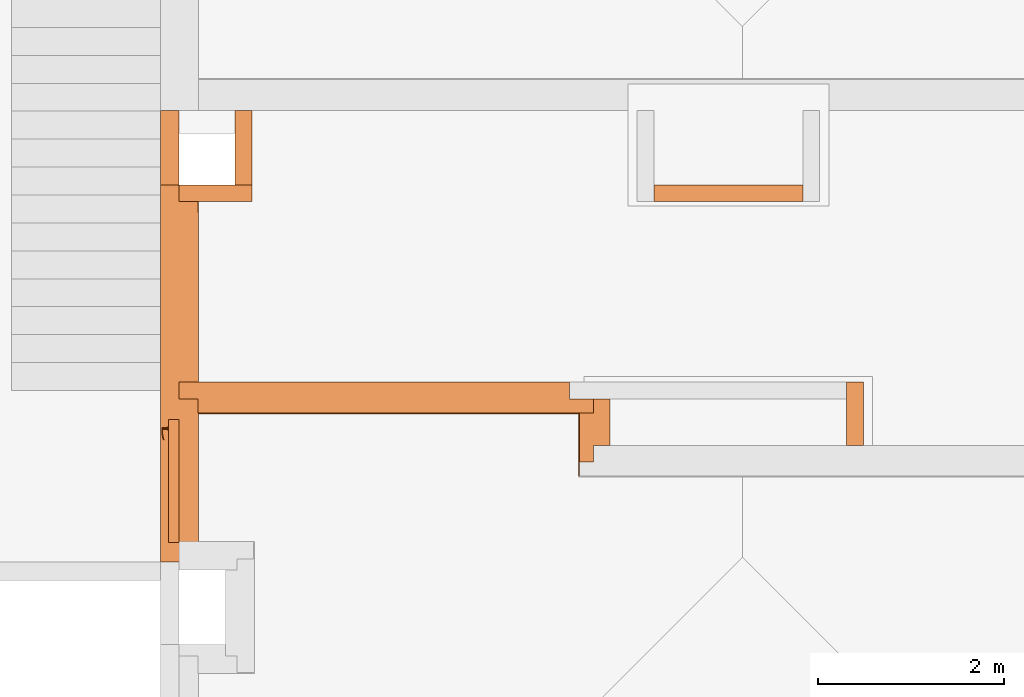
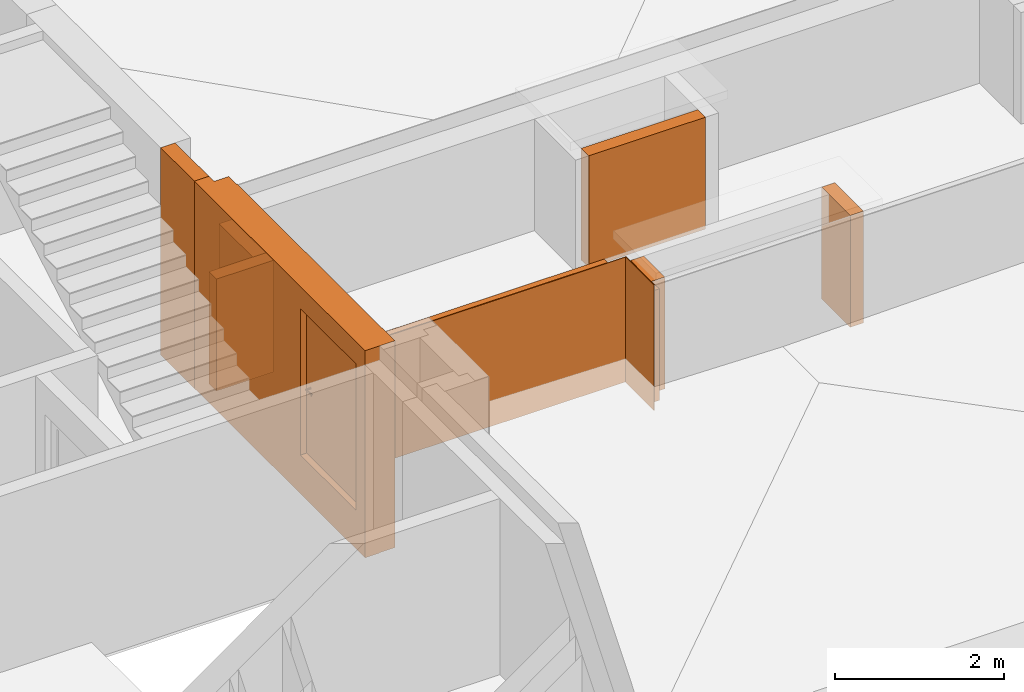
# One storey, part 22 of 30: 9 proxies, 1 opening.
"""IFC2X3 building model written with IfcOpenShell, lengths in millimetres."""

from ifc_helpers import new_model, entity, si_unit, converted_unit, derived_unit, money_unit, direction, frame, origin_with_axes, origin_2d_with_axis, place, context, subcontext, project, spatial, rectangle, extrude, open_shell, faceted_brep, surface_model, material, material_list, type_object, element, fill, save


model = new_model("IFC2X3")

# Units and contexts
model_context = context("Model", 3, precision=0.01, world=origin_with_axes(), true_north=direction((0.34421633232, 0.938890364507)))
body_context = subcontext(model_context, "Body", "Model", "MODEL_VIEW")
ifc_project = project(units=[si_unit("LENGTHUNIT", "METRE", prefix="MILLI"), si_unit("AREAUNIT", "SQUARE_METRE"), si_unit("VOLUMEUNIT", "CUBIC_METRE"), converted_unit("PLANEANGLEUNIT", "DEGREE", entity("IfcPlaneAngleMeasure", 0.0174532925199), si_unit("PLANEANGLEUNIT", "RADIAN"), dimensions=[0, 0, 0, 0, 0, 0, 0]), si_unit("SOLIDANGLEUNIT", "STERADIAN"), money_unit("USD"), converted_unit("TIMEUNIT", "Year", entity("IfcTimeMeasure", 31556926.0), si_unit("TIMEUNIT", "SECOND"), dimensions=[0, 0, 1, 0, 0, 0, 0]), si_unit("MASSUNIT", "GRAM", prefix="KILO"), si_unit("THERMODYNAMICTEMPERATUREUNIT", "DEGREE_CELSIUS"), si_unit("LUMINOUSINTENSITYUNIT", "LUMEN"), si_unit("ENERGYUNIT", "JOULE", prefix="MEGA"), derived_unit("THERMALCONDUCTANCEUNIT", [(si_unit("POWERUNIT", "WATT"), 1), (si_unit("LENGTHUNIT", "METRE"), -1), (si_unit("THERMODYNAMICTEMPERATUREUNIT", "KELVIN"), -1)]), derived_unit("SPECIFICHEATCAPACITYUNIT", [(si_unit("ENERGYUNIT", "JOULE"), 1), (si_unit("MASSUNIT", "GRAM", prefix="KILO"), -1), (si_unit("THERMODYNAMICTEMPERATUREUNIT", "KELVIN"), -1)]), derived_unit("MASSDENSITYUNIT", [(si_unit("MASSUNIT", "GRAM", prefix="KILO"), 1), (si_unit("VOLUMEUNIT", "CUBIC_METRE"), -1)])], contexts=[model_context])

# Site, building, storey
site_placement = place(None, origin_with_axes())
site = spatial("IfcSite", under=ifc_project, at=site_placement, Name="USTRONIE MORSKIE", CompositionType="ELEMENT")
building_placement = place(site_placement, origin_with_axes())
building = spatial("IfcBuilding", under=site, at=building_placement, Name="Budynek", CompositionType="ELEMENT")
storey_placement = place(building_placement, frame((0.0, 0.0, 16000.0), z_axis=(0.0, 0.0, 1.0), x_axis=(1.0, 0.0, 0.0)))
storey = spatial("IfcBuildingStorey", under=building, at=storey_placement, Name="ANTRESOLA - KOND. TECHNICZNA", CompositionType="ELEMENT", Elevation=16000.0)

# Proxies, opening
ifc_material_1 = material(Name="Tynk zewnętrzny")
ifc_material_2 = material(Name="Wełna ELEW")
ifc_material_3 = material(Name="Beton konstrukcyjny B25")
ifc_material_list_1 = material_list([ifc_material_1, ifc_material_2, ifc_material_3])
building_element_proxy_type_1 = type_object("IfcBuildingElementProxyType", Name="20+20 410", PredefinedType="NOTDEFINED")
proxy_1_placement = place(storey_placement, frame((396317.920919, 736951.199036, -160.0), z_axis=(0.0, 0.0, 1.0), x_axis=(0.0, -1.0, 0.0)))
proxy_1 = element("IfcBuildingElementProxy", 1, at=proxy_1_placement, inside=storey, type_object=building_element_proxy_type_1, material=ifc_material_list_1, Name="Œciana-006", context=body_context, shape_type="Brep", body=[
    faceted_brep([(2119.99526878, 310.00000561, 5.0), (180.0, 310.00001125, 5.0), (180.0, 310.00000124, 1620.00000171), (2119.99526878, 310.000000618, 1620.00000171), (180.0, 300.000002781, 5.0), (2119.99526878, 300.000001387, 5.0), (180.0, 300.000000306, 1620.00000171), (2119.99526878, 300.000000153, 1620.00000171)], [[[0, 1, 2, 3]], [[4, 1, 0, 5]], [[1, 4, 6, 2]], [[3, 2, 6, 7]], [[5, 0, 3, 7]], [[4, 5, 7, 6]]]),
    faceted_brep([(4050.0, 310.0, 5.0), (2449.99528083, 310.000004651, 5.0), (2449.99961725, 310.000000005, 1820.00000171), (2449.99961725, 310.000004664, 1825.00000171), (300.0, 310.0, 1825.00000171), (300.0, 310.0, 3000.0), (4050.0, 310.0, 3000.0), (2449.99528086, 300.00000115, 5.0), (4050.0, 300.0, 5.0), (2449.99962788, 300.000000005, 1820.00000171), (2449.99962788, 300.0, 1825.00000171), (300.0, 300.0, 1825.00000171), (300.0, 300.0, 3000.0), (4050.0, 300.0, 3000.0)], [[[0, 1, 2, 3, 4, 5, 6]], [[7, 1, 0, 8]], [[1, 7, 9, 2]], [[3, 2, 9, 10]], [[11, 4, 3, 10]], [[4, 11, 12, 5]], [[6, 5, 12, 13]], [[8, 0, 6, 13]], [[7, 8, 13, 12, 11, 10, 9]]]),
    faceted_brep([(4050.0, 300.0, 5.0), (2299.99526868, 300.000001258, 5.0), (2299.99526877, 300.000000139, 1620.00000171), (2449.99962788, 300.000001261, 1620.00000171), (2449.99962788, 300.000001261, 1820.00000171), (2449.99962788, 300.000001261, 1825.00000171), (120.0, 300.0, 1825.00000171), (120.0, 300.0, 3000.0), (4050.0, 300.0, 3000.0), (2299.99526873, 100.000000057, 5.0), (4050.0, 100.000000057, 5.0), (2299.99526878, 100.000002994, 1620.00000171), (2449.99984052, 100.000002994, 1620.00000171), (2449.99984052, 100.000002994, 1820.00000171), (2449.99984052, 100.000002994, 1825.00000171), (120.0, 100.000002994, 1825.00000171), (120.0, 100.0, 3000.0), (4050.0, 100.0, 3000.0)], [[[0, 1, 2, 3, 4, 5, 6, 7, 8]], [[9, 1, 0, 10]], [[1, 9, 11, 2]], [[3, 2, 11, 12]], [[13, 4, 3, 12]], [[5, 4, 13, 14]], [[15, 6, 5, 14]], [[6, 15, 16, 7]], [[8, 7, 16, 17]], [[10, 0, 8, 17]], [[9, 10, 17, 16, 15, 14, 13, 12, 11]]]),
    faceted_brep([(2119.99526878, 300.000001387, 5.0), (180.0, 300.000002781, 5.0), (180.0, 300.000000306, 1620.00000171), (2119.99526878, 300.000000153, 1620.00000171), (180.0, 100.000000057, 5.0), (2119.99526878, 100.000000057, 5.0), (180.0, 100.000002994, 1620.00000171), (2119.99526878, 100.000002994, 1620.00000171)], [[[0, 1, 2, 3]], [[4, 1, 0, 5]], [[1, 4, 6, 2]], [[3, 2, 6, 7]], [[5, 0, 3, 7]], [[4, 5, 7, 6]]]),
    faceted_brep([(0.0, 99.9999878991, 0.0), (0.0, 100.0, 1819.99999023), (0.0, 100.0, 1825.00000171), (0.0, 100.0, 3000.0), (4050.0, 100.0, 3000.0), (4050.0, 100.0, 0.0), (0.0, -100.0, 0.0), (0.0, -100.0, 1819.99999023), (0.0, -100.0, 1825.00000171), (0.0, -100.0, 3000.0), (4050.0, -100.0, 3000.0), (4050.0, -100.0, 0.0)], [[[0, 1, 2, 3, 4, 5]], [[0, 6, 7, 1]], [[1, 7, 8, 2]], [[2, 8, 9, 3]], [[10, 4, 3, 9]], [[11, 5, 4, 10]], [[5, 11, 6, 0]], [[11, 10, 9, 8, 7, 6]]]),
])
opening_placement = place(proxy_1_placement, frame((3180.0, 0.0, 560.0), z_axis=(0.0, 0.0, 1.0), x_axis=(1.0, 0.0, 0.0)))
opening = element("IfcOpeningElement", 2, at=opening_placement, cuts=proxy_1, Name="D8", context=body_context, shape_type="SweptSolid", body=[
    extrude(rectangle(XDim=1320.0, YDim=2120.0, at=origin_2d_with_axis()), frame((0.0, 100.0, 1060.0), z_axis=(0.0, 1.0, 0.0), x_axis=(1.0, 0.0, 0.0)), (0.0, 0.0, 1.0), 620.0),
    extrude(rectangle(XDim=1320.0, YDim=2120.0, at=origin_2d_with_axis()), frame((0.0, 100.0, 1060.0), z_axis=(0.0, -1.0, 0.0), x_axis=(1.0, 0.0, 0.0)), (0.0, 0.0, 1.0), 610.0),
])
building_element_proxy_type_2 = type_object("IfcBuildingElementProxyType", Name="Drzwi 23", PredefinedType="NOTDEFINED")
proxy_2_placement = place(opening_placement, frame((600.0, 0.0, 0.0), z_axis=(0.0, 0.0, 1.0), x_axis=(-1.0, 0.0, 0.0)))
proxy_2 = element("IfcBuildingElementProxy", 3, at=proxy_2_placement, inside=storey, type_object=building_element_proxy_type_2, Name="D8", context=body_context, shape_type="SurfaceModel", body=[
    faceted_brep([(1200.0, -25.0, 0.0), (1200.0, -100.0, 0.0), (1200.0, -100.0, 2050.0), (1200.0, -25.0, 2050.0), (1212.0, -25.0, 0.0), (1212.0, 15.0, 0.0), (1260.0, 15.0, 0.0), (1260.0, -100.0, 0.0), (1260.0, -100.0, 2050.0), (1212.0, -25.0, 2050.0), (1260.0, 15.0, 2050.0), (1212.0, 15.0, 2050.0)], [[[0, 1, 2, 3]], [[4, 5, 6, 7, 1, 0]], [[1, 7, 8, 2]], [[9, 3, 2, 8, 10, 11]], [[9, 4, 0, 3]], [[11, 5, 4, 9]], [[11, 10, 6, 5]], [[6, 10, 8, 7]]]),
    faceted_brep([(-11.9999999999, -25.0, 2050.0), (-11.9999999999, 15.0, 2050.0), (-59.9999999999, 15.0, 2050.0), (-59.9999999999, -100.0, 2050.0), (0.0, -100.0, 2050.0), (0.0, -25.0, 2050.0), (-11.9999999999, -25.0, 0.0), (-11.9999999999, 15.0, 0.0), (-59.9999999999, 15.0, 0.0), (-59.9999999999, -100.0, 0.0), (0.0, -100.0, 0.0), (0.0, -25.0, 0.0)], [[[0, 1, 2, 3, 4, 5]], [[0, 6, 7, 1]], [[7, 8, 2, 1]], [[2, 8, 9, 3]], [[3, 9, 10, 4]], [[5, 4, 10, 11]], [[5, 11, 6, 0]], [[6, 11, 10, 9, 8, 7]]]),
    faceted_brep([(1212.0, 15.0, 2062.0), (-11.9999999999, 15.0, 2062.0), (-11.9999999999, 15.0, 2050.0), (-59.9999999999, 15.0, 2050.0), (-59.9999999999, 15.0, 2120.0), (1260.0, 15.0, 2120.0), (1260.0, 15.0, 2050.0), (1212.0, 15.0, 2050.0), (1212.0, -25.0, 2062.0), (-11.9999999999, -25.0, 2062.0), (-11.9999999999, -25.0, 2050.0), (0.0, -25.0, 2050.0), (0.0, -100.0, 2050.0), (-59.9999999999, -100.0, 2050.0), (-59.9999999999, -100.0, 2120.0), (1260.0, -100.0, 2120.0), (1260.0, -100.0, 2050.0), (1212.0, -25.0, 2050.0), (1200.0, -100.0, 2050.0), (1200.0, -25.0, 2050.0)], [[[0, 1, 2, 3, 4, 5, 6, 7]], [[0, 8, 9, 1]], [[1, 9, 10, 2]], [[10, 11, 12, 13, 3, 2]], [[4, 3, 13, 14]], [[5, 4, 14, 15]], [[6, 5, 15, 16]], [[17, 7, 6, 16, 18, 19]], [[7, 17, 8, 0]], [[10, 9, 8, 17, 19, 11]], [[19, 18, 12, 11]], [[12, 18, 16, 15, 14, 13]]]),
    faceted_brep([(1190.5, -25.0, 1060.0), (1133.5, -25.0, 1060.0), (1133.5, -28.0, 1060.0), (1190.5, -28.0, 1060.0), (1190.5, -25.0, 870.0), (1133.5, -25.0, 870.0), (1133.5, -28.0, 870.0), (1190.5, -28.0, 870.0)], [[[0, 1, 2, 3]], [[0, 4, 5, 1]], [[1, 5, 6, 2]], [[3, 2, 6, 7]], [[4, 0, 3, 7]], [[5, 4, 7, 6]]]),
    faceted_brep([(1162.0, -88.9999999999, 990.0), (1167.0, -88.9999999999, 991.339745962), (1167.0, -95.9999999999, 991.339745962), (1162.0, -95.9999999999, 990.0), (1137.0, -88.9999999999, 990.0), (1137.0, -88.9999999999, 1010.0), (1162.0, -88.9999999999, 1010.0), (1167.0, -88.9999999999, 1008.66025404), (1170.66025404, -88.9999999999, 1005.0), (1172.0, -88.9999999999, 1000.0), (1170.66025404, -88.9999999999, 995.0), (1170.66025404, -95.9999999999, 995.0), (1172.0, -95.9999999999, 1000.0), (1170.66025404, -95.9999999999, 1005.0), (1167.0, -95.9999999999, 1008.66025404), (1162.0, -95.9999999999, 1010.0), (1137.0, -95.9999999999, 1010.0), (1137.0, -95.9999999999, 990.0)], [[[0, 1, 2, 3]], [[0, 4, 5, 6, 7, 8, 9, 10, 1]], [[1, 10, 11, 2]], [[3, 2, 11, 12, 13, 14, 15, 16, 17]], [[4, 0, 3, 17]], [[5, 4, 17, 16]], [[6, 5, 16, 15]], [[7, 6, 15, 14]], [[8, 7, 14, 13]], [[9, 8, 13, 12]], [[10, 9, 12, 11]]]),
    surface_model("IfcShellBasedSurfaceModel", [(1137.0, -88.9999999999, 1010.0), (1123.90171713, -88.9999999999, 1009.60730092), (1123.59609053, -95.9999999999, 1009.60730092), (1137.0, -88.9999999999, 990.0), (1123.90171713, -88.9999999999, 990.392699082), (1096.89028343, -93.6635446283, 1008.82190275), (1137.0, -95.9999999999, 1010.0), (1137.0, -95.9999999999, 990.0), (1097.80483722, -86.716818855, 991.178097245), (1097.80483722, -86.716818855, 1008.82190275), (1096.89028343, -93.6635446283, 991.178097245), (1123.59609053, -95.9999999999, 990.392699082), (1072.00625618, -82.1678329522, 991.963495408), (1072.00625618, -82.1678329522, 1008.03650459), (1070.48973549, -89.0084157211, 1008.03650459), (1070.48973549, -89.0084157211, 991.963495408), (1046.70231676, -75.3876628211, 992.748893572), (1046.70231676, -75.3876628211, 1007.25110643), (1044.59537082, -82.0700416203, 1007.25110643), (1044.59537082, -82.0700416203, 992.748893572), (1038.82944201, -72.5221707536, 993.0), (1038.82944201, -72.5221707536, 1007.0), (1036.53879566, -79.1376880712, 1007.0), (1036.53879566, -79.1376880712, 993.0)], [open_shell([[[0, 1, 2]], [[0, 3, 4, 1]], [[1, 5, 2]], [[0, 2, 6]], [[4, 3, 7]], [[1, 4, 8, 9]], [[1, 9, 5]], [[2, 5, 10, 11]], [[6, 2, 11, 7]], [[4, 7, 11]], [[8, 4, 11]], [[9, 8, 12, 13]], [[9, 14, 5]], [[5, 14, 15, 10]], [[8, 11, 10]], [[12, 8, 10]], [[13, 12, 16, 17]], [[9, 13, 14]], [[14, 18, 19, 15]], [[12, 10, 15]], [[16, 12, 15]], [[17, 16, 20, 21]], [[13, 17, 18]], [[13, 18, 14]], [[18, 22, 23, 19]], [[16, 15, 19]], [[20, 16, 19]], [[21, 20, 23, 22]], [[17, 21, 22]], [[17, 22, 18]], [[20, 19, 23]]])]),
    faceted_brep([(1151.60769515, -38.0, 994.0), (1150.0, -38.0, 1000.0), (1149.0, -28.0, 1000.0), (1150.74166975, -28.0, 993.5), (1156.0, -38.0, 989.607695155), (1162.0, -38.0, 988.0), (1168.0, -38.0, 989.607695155), (1172.39230485, -38.0, 994.0), (1174.0, -38.0, 1000.0), (1172.39230485, -38.0, 1006.0), (1168.0, -38.0, 1010.39230485), (1162.0, -38.0, 1012.0), (1156.0, -38.0, 1010.39230485), (1151.60769515, -38.0, 1006.0), (1150.74166975, -28.0, 1006.5), (1155.5, -28.0, 1011.25833025), (1162.0, -28.0, 1013.0), (1168.5, -28.0, 1011.25833025), (1173.25833025, -28.0, 1006.5), (1175.0, -28.0, 1000.0), (1173.25833025, -28.0, 993.5), (1168.5, -28.0, 988.741669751), (1162.0, -28.0, 987.0), (1155.5, -28.0, 988.741669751)], [[[0, 1, 2, 3]], [[1, 0, 4, 5, 6, 7, 8, 9, 10, 11, 12, 13]], [[1, 13, 14, 2]], [[2, 14, 15, 16, 17, 18, 19, 20, 21, 22, 23, 3]], [[4, 0, 3, 23]], [[5, 4, 23, 22]], [[6, 5, 22, 21]], [[7, 6, 21, 20]], [[8, 7, 20, 19]], [[9, 8, 19, 18]], [[10, 9, 18, 17]], [[11, 10, 17, 16]], [[12, 11, 16, 15]], [[13, 12, 15, 14]]]),
    faceted_brep([(1144.67949192, -32.0, 895.0), (1142.0, -32.0, 905.0), (1140.0, -28.0, 905.0), (1142.94744112, -28.0, 894.0), (1152.0, -32.0, 887.679491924), (1162.0, -32.0, 885.0), (1172.0, -32.0, 887.679491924), (1179.32050808, -32.0, 895.0), (1182.0, -32.0, 905.0), (1179.32050808, -32.0, 915.0), (1172.0, -32.0, 922.320508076), (1162.0, -32.0, 925.0), (1152.0, -32.0, 922.320508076), (1144.67949192, -32.0, 915.0), (1142.94744112, -28.0, 916.0), (1151.0, -28.0, 924.052558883), (1162.0, -28.0, 927.0), (1173.0, -28.0, 924.052558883), (1181.05255888, -28.0, 916.0), (1184.0, -28.0, 905.0), (1181.05255888, -28.0, 894.0), (1173.0, -28.0, 885.947441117), (1162.0, -28.0, 883.0), (1151.0, -28.0, 885.947441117)], [[[0, 1, 2, 3]], [[1, 0, 4, 5, 6, 7, 8, 9, 10, 11, 12, 13]], [[1, 13, 14, 2]], [[2, 14, 15, 16, 17, 18, 19, 20, 21, 22, 23, 3]], [[4, 0, 3, 23]], [[5, 4, 23, 22]], [[6, 5, 22, 21]], [[7, 6, 21, 20]], [[8, 7, 20, 19]], [[9, 8, 19, 18]], [[10, 9, 18, 17]], [[11, 10, 17, 16]], [[12, 11, 16, 15]], [[13, 12, 15, 14]]]),
    faceted_brep([(1157.05025253, -33.9999999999, 909.050252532), (1155.0, -33.9999999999, 914.0), (1154.0, -32.0, 914.0), (1156.34314575, -32.0, 908.343145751), (1162.0, -33.9999999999, 907.0), (1166.94974747, -33.9999999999, 909.050252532), (1169.0, -33.9999999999, 914.0), (1166.94974747, -33.9999999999, 918.949747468), (1162.0, -33.9999999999, 921.0), (1157.05025253, -33.9999999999, 918.949747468), (1156.34314575, -32.0, 919.656854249), (1162.0, -32.0, 922.0), (1167.65685425, -32.0, 919.656854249), (1170.0, -32.0, 914.0), (1167.65685425, -32.0, 908.343145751), (1162.0, -32.0, 906.0)], [[[0, 1, 2, 3]], [[1, 0, 4, 5, 6, 7, 8, 9]], [[1, 9, 10, 2]], [[2, 10, 11, 12, 13, 14, 15, 3]], [[4, 0, 3, 15]], [[5, 4, 15, 14]], [[6, 5, 14, 13]], [[7, 6, 13, 12]], [[8, 7, 12, 11]], [[9, 8, 11, 10]]]),
    faceted_brep([(1162.0, -38.0, 1010.0), (1157.0, -38.0, 1008.66025404), (1157.0, -88.9999999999, 1008.66025404), (1162.0, -88.9999999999, 1010.0), (1167.0, -38.0, 1008.66025404), (1170.66025404, -38.0, 1005.0), (1172.0, -38.0, 1000.0), (1170.66025404, -38.0, 995.0), (1167.0, -38.0, 991.339745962), (1162.0, -38.0, 990.0), (1157.0, -38.0, 991.339745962), (1153.33974596, -38.0, 995.0), (1152.0, -38.0, 1000.0), (1153.33974596, -38.0, 1005.0), (1153.33974596, -88.9999999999, 1005.0), (1152.0, -88.9999999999, 1000.0), (1153.33974596, -88.9999999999, 995.0), (1157.0, -88.9999999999, 991.339745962), (1162.0, -88.9999999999, 990.0), (1167.0, -88.9999999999, 991.339745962), (1170.66025404, -88.9999999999, 995.0), (1172.0, -88.9999999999, 1000.0), (1170.66025404, -88.9999999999, 1005.0), (1167.0, -88.9999999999, 1008.66025404)], [[[0, 1, 2, 3]], [[0, 4, 5, 6, 7, 8, 9, 10, 11, 12, 13, 1]], [[1, 13, 14, 2]], [[3, 2, 14, 15, 16, 17, 18, 19, 20, 21, 22, 23]], [[4, 0, 3, 23]], [[5, 4, 23, 22]], [[6, 5, 22, 21]], [[7, 6, 21, 20]], [[8, 7, 20, 19]], [[9, 8, 19, 18]], [[10, 9, 18, 17]], [[11, 10, 17, 16]], [[12, 11, 16, 15]], [[13, 12, 15, 14]]]),
    faceted_brep([(1190.5, 15.0, 1060.0), (1190.5, 18.0, 1060.0), (1133.5, 18.0, 1060.0), (1133.5, 15.0, 1060.0), (1190.5, 15.0, 870.0), (1190.5, 18.0, 870.0), (1133.5, 18.0, 870.0), (1133.5, 15.0, 870.0)], [[[0, 1, 2, 3]], [[4, 5, 1, 0]], [[1, 5, 6, 2]], [[3, 2, 6, 7]], [[0, 3, 7, 4]], [[7, 6, 5, 4]]]),
    faceted_brep([(1162.0, 79.0000000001, 990.0), (1162.0, 86.0000000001, 990.0), (1167.0, 86.0000000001, 991.339745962), (1167.0, 79.0000000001, 991.339745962), (1137.0, 79.0000000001, 990.0), (1137.0, 86.0000000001, 990.0), (1137.0, 86.0000000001, 1010.0), (1162.0, 86.0000000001, 1010.0), (1167.0, 86.0000000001, 1008.66025404), (1170.66025404, 86.0000000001, 1005.0), (1172.0, 86.0000000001, 1000.0), (1170.66025404, 86.0000000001, 995.0), (1170.66025404, 79.0000000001, 995.0), (1172.0, 79.0000000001, 1000.0), (1170.66025404, 79.0000000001, 1005.0), (1167.0, 79.0000000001, 1008.66025404), (1162.0, 79.0000000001, 1010.0), (1137.0, 79.0000000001, 1010.0)], [[[0, 1, 2, 3]], [[4, 5, 1, 0]], [[1, 5, 6, 7, 8, 9, 10, 11, 2]], [[3, 2, 11, 12]], [[0, 3, 12, 13, 14, 15, 16, 17, 4]], [[17, 6, 5, 4]], [[16, 7, 6, 17]], [[15, 8, 7, 16]], [[14, 9, 8, 15]], [[13, 10, 9, 14]], [[12, 11, 10, 13]]]),
    surface_model("IfcShellBasedSurfaceModel", [(1137.0, 79.0000000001, 1010.0), (1123.59609053, 86.0000000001, 1009.60730092), (1123.90171713, 79.0000000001, 1009.60730092), (1137.0, 86.0000000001, 1010.0), (1096.89028343, 83.6635446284, 1008.82190275), (1123.90171713, 79.0000000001, 990.392699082), (1137.0, 79.0000000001, 990.0), (1137.0, 86.0000000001, 990.0), (1123.59609053, 86.0000000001, 990.392699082), (1096.89028343, 83.6635446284, 991.178097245), (1097.80483722, 76.7168188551, 1008.82190275), (1097.80483722, 76.7168188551, 991.178097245), (1070.48973549, 79.0084157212, 991.963495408), (1070.48973549, 79.0084157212, 1008.03650459), (1072.00625618, 72.1678329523, 1008.03650459), (1072.00625618, 72.1678329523, 991.963495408), (1044.59537082, 72.0700416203, 992.748893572), (1044.59537082, 72.0700416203, 1007.25110643), (1046.70231676, 65.3876628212, 1007.25110643), (1046.70231676, 65.3876628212, 992.748893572), (1036.53879566, 69.1376880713, 993.0), (1036.53879566, 69.1376880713, 1007.0), (1038.82944201, 62.5221707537, 1007.0), (1038.82944201, 62.5221707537, 993.0)], [open_shell([[[0, 1, 2]], [[0, 3, 1]], [[2, 1, 4]], [[0, 2, 5, 6]], [[3, 7, 8, 1]], [[1, 8, 9, 4]], [[2, 4, 10]], [[2, 10, 11, 5]], [[5, 7, 6]], [[5, 8, 7]], [[11, 9, 8]], [[4, 9, 12, 13]], [[10, 4, 13]], [[10, 14, 15, 11]], [[11, 8, 5]], [[15, 9, 11]], [[15, 12, 9]], [[13, 12, 16, 17]], [[10, 13, 14]], [[14, 18, 19, 15]], [[19, 12, 15]], [[19, 16, 12]], [[17, 16, 20, 21]], [[14, 13, 17]], [[14, 17, 18]], [[18, 22, 23, 19]], [[23, 16, 19]], [[23, 20, 16]], [[22, 21, 20, 23]], [[18, 17, 21]], [[18, 21, 22]]])]),
    faceted_brep([(1151.60769515, 28.0, 994.0), (1150.74166975, 18.0, 993.5), (1149.0, 18.0, 1000.0), (1150.0, 28.0, 1000.0), (1156.0, 28.0, 989.607695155), (1155.5, 18.0, 988.741669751), (1162.0, 18.0, 987.0), (1168.5, 18.0, 988.741669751), (1173.25833025, 18.0, 993.5), (1175.0, 18.0, 1000.0), (1173.25833025, 18.0, 1006.5), (1168.5, 18.0, 1011.25833025), (1162.0, 18.0, 1013.0), (1155.5, 18.0, 1011.25833025), (1150.74166975, 18.0, 1006.5), (1151.60769515, 28.0, 1006.0), (1156.0, 28.0, 1010.39230485), (1162.0, 28.0, 1012.0), (1168.0, 28.0, 1010.39230485), (1172.39230485, 28.0, 1006.0), (1174.0, 28.0, 1000.0), (1172.39230485, 28.0, 994.0), (1168.0, 28.0, 989.607695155), (1162.0, 28.0, 988.0)], [[[0, 1, 2, 3]], [[4, 5, 1, 0]], [[2, 1, 5, 6, 7, 8, 9, 10, 11, 12, 13, 14]], [[3, 2, 14, 15]], [[3, 15, 16, 17, 18, 19, 20, 21, 22, 23, 4, 0]], [[23, 6, 5, 4]], [[22, 7, 6, 23]], [[21, 8, 7, 22]], [[20, 9, 8, 21]], [[19, 10, 9, 20]], [[18, 11, 10, 19]], [[17, 12, 11, 18]], [[16, 13, 12, 17]], [[15, 14, 13, 16]]]),
    faceted_brep([(1144.67949192, 22.0, 895.0), (1142.94744112, 18.0, 894.0), (1140.0, 18.0, 905.0), (1142.0, 22.0, 905.0), (1152.0, 22.0, 887.679491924), (1151.0, 18.0, 885.947441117), (1162.0, 18.0, 883.0), (1173.0, 18.0, 885.947441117), (1181.05255888, 18.0, 894.0), (1184.0, 18.0, 905.0), (1181.05255888, 18.0, 916.0), (1173.0, 18.0, 924.052558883), (1162.0, 18.0, 927.0), (1151.0, 18.0, 924.052558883), (1142.94744112, 18.0, 916.0), (1144.67949192, 22.0, 915.0), (1152.0, 22.0, 922.320508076), (1162.0, 22.0, 925.0), (1172.0, 22.0, 922.320508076), (1179.32050808, 22.0, 915.0), (1182.0, 22.0, 905.0), (1179.32050808, 22.0, 895.0), (1172.0, 22.0, 887.679491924), (1162.0, 22.0, 885.0)], [[[0, 1, 2, 3]], [[4, 5, 1, 0]], [[2, 1, 5, 6, 7, 8, 9, 10, 11, 12, 13, 14]], [[3, 2, 14, 15]], [[3, 15, 16, 17, 18, 19, 20, 21, 22, 23, 4, 0]], [[23, 6, 5, 4]], [[22, 7, 6, 23]], [[21, 8, 7, 22]], [[20, 9, 8, 21]], [[19, 10, 9, 20]], [[18, 11, 10, 19]], [[17, 12, 11, 18]], [[16, 13, 12, 17]], [[15, 14, 13, 16]]]),
    faceted_brep([(1157.05025253, 24.0000000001, 909.050252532), (1156.34314575, 22.0, 908.343145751), (1154.0, 22.0, 914.0), (1155.0, 24.0000000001, 914.0), (1162.0, 24.0000000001, 907.0), (1162.0, 22.0, 906.0), (1167.65685425, 22.0, 908.343145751), (1170.0, 22.0, 914.0), (1167.65685425, 22.0, 919.656854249), (1162.0, 22.0, 922.0), (1156.34314575, 22.0, 919.656854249), (1157.05025253, 24.0000000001, 918.949747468), (1162.0, 24.0000000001, 921.0), (1166.94974747, 24.0000000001, 918.949747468), (1169.0, 24.0000000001, 914.0), (1166.94974747, 24.0000000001, 909.050252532)], [[[0, 1, 2, 3]], [[4, 5, 1, 0]], [[2, 1, 5, 6, 7, 8, 9, 10]], [[3, 2, 10, 11]], [[3, 11, 12, 13, 14, 15, 4, 0]], [[15, 6, 5, 4]], [[14, 7, 6, 15]], [[13, 8, 7, 14]], [[12, 9, 8, 13]], [[11, 10, 9, 12]]]),
    faceted_brep([(1162.0, 28.0, 1010.0), (1162.0, 79.0000000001, 1010.0), (1157.0, 79.0000000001, 1008.66025404), (1157.0, 28.0, 1008.66025404), (1167.0, 28.0, 1008.66025404), (1167.0, 79.0000000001, 1008.66025404), (1170.66025404, 79.0000000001, 1005.0), (1172.0, 79.0000000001, 1000.0), (1170.66025404, 79.0000000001, 995.0), (1167.0, 79.0000000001, 991.339745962), (1162.0, 79.0000000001, 990.0), (1157.0, 79.0000000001, 991.339745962), (1153.33974596, 79.0000000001, 995.0), (1152.0, 79.0000000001, 1000.0), (1153.33974596, 79.0000000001, 1005.0), (1153.33974596, 28.0, 1005.0), (1152.0, 28.0, 1000.0), (1153.33974596, 28.0, 995.0), (1157.0, 28.0, 991.339745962), (1162.0, 28.0, 990.0), (1167.0, 28.0, 991.339745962), (1170.66025404, 28.0, 995.0), (1172.0, 28.0, 1000.0), (1170.66025404, 28.0, 1005.0)], [[[0, 1, 2, 3]], [[4, 5, 1, 0]], [[1, 5, 6, 7, 8, 9, 10, 11, 12, 13, 14, 2]], [[3, 2, 14, 15]], [[0, 3, 15, 16, 17, 18, 19, 20, 21, 22, 23, 4]], [[23, 6, 5, 4]], [[22, 7, 6, 23]], [[21, 8, 7, 22]], [[20, 9, 8, 21]], [[19, 10, 9, 20]], [[18, 11, 10, 19]], [[17, 12, 11, 18]], [[16, 13, 12, 17]], [[15, 14, 13, 16]]]),
    faceted_brep([(-11.9999999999, 15.0, 0.0), (1212.0, 15.0, 0.0), (1212.0, -25.0, 0.0), (-11.9999999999, -25.0, 0.0), (-11.9999999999, 15.0, 2062.0), (1212.0, 15.0, 2062.0), (1212.0, -25.0, 2062.0), (-11.9999999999, -25.0, 2062.0)], [[[0, 1, 2, 3]], [[0, 4, 5, 1]], [[1, 5, 6, 2]], [[3, 2, 6, 7]], [[4, 0, 3, 7]], [[5, 4, 7, 6]]]),
])
fill(opening, proxy_2)

# Proxies
ifc_material_4 = material(Name="Bloczki silikatowe")
building_element_proxy_type_3 = type_object("IfcBuildingElementProxyType", Name="Bloczki silikatowe 180", PredefinedType="NOTDEFINED")
proxy_3_placement = place(storey_placement, frame((403207.920919, 736861.199036, -359.999998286), z_axis=(0.0, 0.0, 1.0), x_axis=(-1.0, 0.0, 0.0)))
element("IfcBuildingElementProxy", 4, at=proxy_3_placement, inside=storey, type_object=building_element_proxy_type_3, material=ifc_material_4, Name="SW-02", context=body_context, shape_type="Brep", body=[
    faceted_brep([(90.0, 90.0, 1820.0), (90.0, 90.0, 199.999998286), (90.0, -90.0, 199.999998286), (90.0, -90.0, 1820.0), (790.0, 90.0000000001, 199.999998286), (1690.0, 90.0, 1820.0), (1690.0, 90.0, 199.999998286), (990.0, 90.0000000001, 199.999998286), (790.0, -90.0, 199.999998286), (990.0, -90.0, 199.999998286), (1690.0, -90.0, 199.999998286), (1690.0, -90.0, 1820.0)], [[[0, 1, 2, 3]], [[4, 1, 0, 5, 6, 7]], [[8, 2, 1, 4]], [[3, 2, 8, 9, 10, 11]], [[5, 0, 3, 11]], [[11, 10, 6, 5]], [[9, 7, 6, 10]], [[9, 8, 4, 7]]]),
])
proxy_4_placement = place(storey_placement, frame((397017.904099, 736951.199036, -159.999998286), z_axis=(0.0, 0.0, 1.0), x_axis=(-1.0, 0.0, 0.0)))
element("IfcBuildingElementProxy", 5, at=proxy_4_placement, inside=storey, type_object=building_element_proxy_type_3, material=ifc_material_4, Name="SW-02", context=body_context, shape_type="Brep", body=[
    faceted_brep([(599.983179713, 0.0, -1.71373315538e-06), (599.983176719, -2.1998516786e-05, 1620.0), (7.4743809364e-05, -2.1998516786e-05, 1620.0), (-180.0, 0.0, 1620.00000061), (-180.0, 0.0, 0.0), (599.983179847, 180.0, -1.71373315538e-06), (599.983176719, 180.0, 1620.0), (9.92052946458e-05, 180.0, 1620.0), (-180.0, 180.0, 1620.00000061), (-180.0, 180.0, 0.0)], [[[0, 1, 2, 3, 4]], [[5, 6, 1, 0]], [[6, 7, 2, 1]], [[3, 2, 7, 8]], [[8, 9, 4, 3]], [[4, 9, 5, 0]], [[8, 7, 6, 5, 9]]]),
])
proxy_5_placement = place(storey_placement, frame((403677.920919, 734061.201884, -159.999998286), z_axis=(0.0, 0.0, 1.0), x_axis=(0.0, 1.0, 0.0)))
element("IfcBuildingElementProxy", 6, at=proxy_5_placement, inside=storey, type_object=building_element_proxy_type_3, material=ifc_material_4, Name="SW-02", context=body_context, shape_type="Brep", body=[
    faceted_brep([(770.001883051, 90.0, 0.0), (770.001883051, 90.0, 1620.0), (770.001883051, -90.0, 1620.0), (770.001883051, -90.0, 0.0), (90.0, 90.0, 0.0), (90.0, 90.0, 1620.0), (90.0, -90.0, 1620.0), (90.0, -90.0, 0.0)], [[[0, 1, 2, 3]], [[4, 5, 1, 0]], [[5, 6, 2, 1]], [[3, 2, 6, 7]], [[4, 0, 3, 7]], [[7, 6, 5, 4]]]),
])
proxy_6_placement = place(storey_placement, frame((397017.904099, 737841.199937, -159.999998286), z_axis=(0.0, 0.0, 1.0), x_axis=(0.0, -1.0, 0.0)))
element("IfcBuildingElementProxy", 7, at=proxy_6_placement, inside=storey, type_object=building_element_proxy_type_3, material=ifc_material_4, Name="Œciana-006", context=body_context, shape_type="Brep", body=[
    faceted_brep([(890.00090117, 0.0, 1620.00000061), (890.00090117, 180.0, 1620.00000061), (90.0, 180.0, 1620.00000061), (90.0, 0.0, 1620.00000061), (890.00090117, 0.0, 0.0), (890.00090117, 180.0, 0.0), (90.0, 180.0, 0.0), (90.0, 0.0, 0.0)], [[[0, 1, 2, 3]], [[1, 0, 4, 5]], [[1, 5, 6, 2]], [[7, 3, 2, 6]], [[4, 0, 3, 7]], [[5, 4, 7, 6]]]),
])
building_element_proxy_type_4 = type_object("IfcBuildingElementProxyType", Name="Beton konstrukcyjny B25 200", PredefinedType="NOTDEFINED")
proxy_7_placement = place(storey_placement, frame((396317.920919, 737751.199937, -159.999998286), z_axis=(0.0, 0.0, 1.0), x_axis=(0.0, -1.0, 0.0)))
element("IfcBuildingElementProxy", 8, at=proxy_7_placement, inside=storey, type_object=building_element_proxy_type_4, material=ifc_material_3, Name="Œciana-006", context=body_context, shape_type="Brep", body=[
    faceted_brep([(0.0, -100.0, 2999.99999829), (800.00090117, -100.0, 2999.99999829), (800.00090117, 100.0, 2999.99999829), (0.0, 100.0, 2999.99999829), (800.00090117, -100.0, 1819.99998851), (800.00090117, -100.0, 1825.0), (0.0, -100.0, 0.0), (800.00090117, -100.0, -1.71373493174e-06), (800.00090117, 100.0, 1825.0), (800.00090117, 100.0, 1819.99998851), (800.00090117, 100.0, -1.71373493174e-06), (0.0, 100.0, 0.0)], [[[0, 1, 2, 3]], [[4, 5, 1, 0, 6, 7]], [[5, 8, 2, 1]], [[3, 2, 8, 9, 10, 11]], [[3, 11, 6, 0]], [[9, 8, 5, 4]], [[6, 11, 10, 7]], [[7, 10, 9, 4]]]),
])
ifc_material_list_2 = material_list([ifc_material_1, ifc_material_2, ifc_material_4])
building_element_proxy_type_5 = type_object("IfcBuildingElementProxyType", Name="18+15 AKU 340", PredefinedType="NOTDEFINED")
proxy_8_placement = place(storey_placement, frame((400957.920919, 734741.203767, -359.999998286), z_axis=(0.0, 0.0, 1.0), x_axis=(-1.0, 0.0, 0.0)))
element("IfcBuildingElementProxy", 9, at=proxy_8_placement, inside=storey, type_object=building_element_proxy_type_5, material=ifc_material_list_2, Name="Œciana-006", context=body_context, shape_type="Brep", body=[
    faceted_brep([(240.0, 250.0, 554.111984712), (240.0, 240.004487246, 554.111984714), (240.0, 240.0, 2019.99998851), (240.0, 250.0, 2019.99998851), (4329.99999645, 240.004487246, 635.911984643), (4329.99999648, 250.0, 635.911984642), (4330.0, 240.0, 2019.99998851), (4330.0, 250.0, 2019.99998851)], [[[0, 1, 2, 3]], [[4, 1, 0, 5]], [[1, 4, 6, 2]], [[6, 7, 3, 2]], [[5, 0, 3, 7]], [[4, 5, 7, 6]]]),
    faceted_brep([(90.0, 240.000000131, 1820.0), (90.0, 240.000001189, 204.999998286), (90.0, 90.0, 204.999998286), (90.0, 90.0, 1820.0), (4339.99999987, 240.004359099, 1820.0), (4339.99999885, 240.000014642, 204.999998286), (240.000186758, 240.0, 1820.0), (4339.99999874, 89.9999988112, 204.999998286), (4339.99999986, 89.9999998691, 1820.0)], [[[0, 1, 2, 3]], [[4, 5, 1, 0, 6]], [[5, 7, 2, 1]], [[3, 2, 7, 8]], [[6, 0, 3, 8, 4]], [[8, 7, 5, 4]]]),
    faceted_brep([(350.0, 90.0, 199.999998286), (350.0, -90.0, 199.999998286), (350.0, -90.0, 1820.0), (350.0, 90.0, 1820.0), (4539.99999994, -90.0, 199.999998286), (4539.99999994, 89.9999999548, 199.999998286), (4539.99999994, -9.99905354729, 199.999998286), (4539.99999701, -90.0, 1820.0), (4539.99999701, 89.999999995, 1820.0)], [[[0, 1, 2, 3]], [[4, 1, 0, 5, 6]], [[1, 4, 7, 2]], [[3, 2, 7, 8]], [[5, 0, 3, 8]], [[6, 5, 8, 7, 4]]]),
])
proxy_9_placement = place(storey_placement, frame((400957.920919, 734061.201884, -160.0), z_axis=(0.0, 0.0, 1.0), x_axis=(0.0, 1.0, 0.0)))
element("IfcBuildingElementProxy", 10, at=proxy_9_placement, inside=storey, type_object=building_element_proxy_type_5, material=ifc_material_list_2, Name="Œciana-006", context=body_context, shape_type="Brep", body=[
    faceted_brep([(-240.0, 240.0, 5.0), (430.001883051, 240.0, 5.0), (430.001883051, 240.0, 1819.99999023), (-240.0, 240.0, 1819.99999023), (430.001883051, 250.0, 5.0), (-240.0, 250.0, 5.0), (430.001883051, 250.0, 1819.99999023), (-240.0, 250.0, 1819.99999023)], [[[0, 1, 2, 3]], [[4, 1, 0, 5]], [[1, 4, 6, 2]], [[2, 6, 7, 3]], [[5, 0, 3, 7]], [[4, 5, 7, 6]]]),
    faceted_brep([(-90.0, 90.0, 5.0), (440.001883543, 90.0, 5.0), (440.00204253, 90.0000000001, 1620.00000171), (-90.0, 90.0, 1620.00000171), (440.001883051, 240.000000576, 5.0), (-90.0, 240.000001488, 5.0), (440.001883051, 240.000186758, 1620.00000171), (-89.9999999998, 240.000482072, 1620.00000171)], [[[0, 1, 2, 3]], [[4, 1, 0, 5]], [[1, 4, 6, 2]], [[3, 2, 6, 7]], [[5, 0, 3, 7]], [[4, 5, 7, 6]]]),
    faceted_brep([(590.001883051, 90.0, 1620.00000171), (590.001883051, -90.0, 1620.00000171), (590.001883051, -90.0, 0.0), (590.001883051, 90.0, 0.0), (90.0, 90.0, 1620.00000171), (90.0, -90.0, 1620.00000171), (90.0, -90.0, 0.0), (90.0, 90.0, 0.0)], [[[0, 1, 2, 3]], [[1, 0, 4, 5]], [[1, 5, 6, 2]], [[7, 3, 2, 6]], [[0, 3, 7, 4]], [[5, 4, 7, 6]]]),
])

save(model, "model.ifc")
